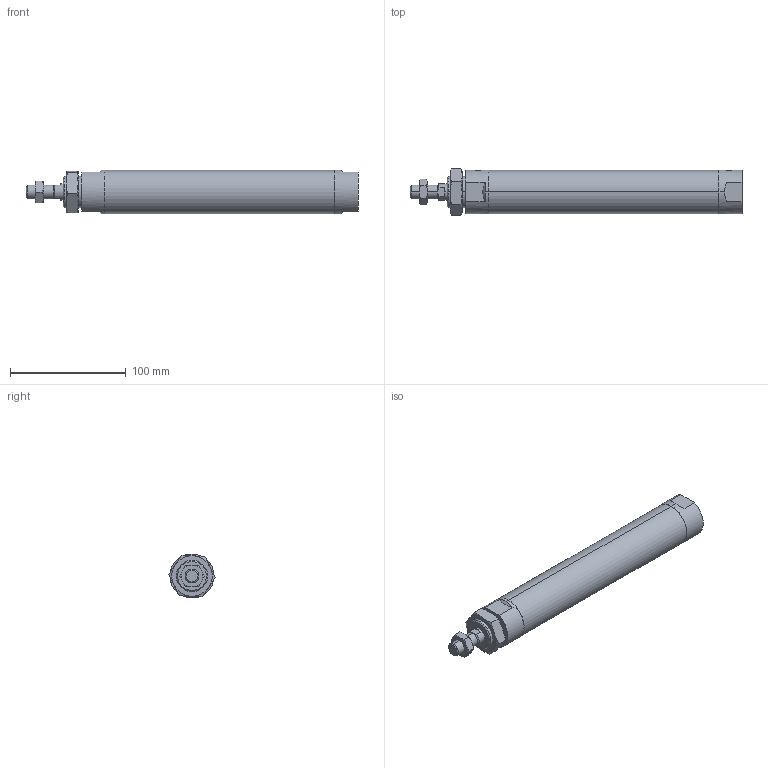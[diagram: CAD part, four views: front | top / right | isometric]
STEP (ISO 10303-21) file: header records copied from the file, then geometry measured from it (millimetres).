
FILE_DESCRIPTION (( 'STEP AP203' ), '1' );
FILE_NAME ('JGND2-32-150-N.STEP', '2016-08-04T02:55:14', ( '' ), ( '' ), 'SwSTEP 2.0', 'SolidWorks 2014', '' );
FILE_SCHEMA (( 'CONFIG_CONTROL_DESIGN' ));
Length unit declared in the file: millimetre
Products named in the file (4): J#2-32-150(P); JGND2-32-150-N
Assembly tree (3 placements, depth 2):
  JGND2-32-150-N
    J#2-32-150(P)
    (unnamed)
    (unnamed)
Bounding box: 287 x 40.33 x 38 mm (x, y, z)
Volume: 282336 mm3; surface area: 38434.6 mm2
Topology: 3 solids, 3 shells, 89 faces, 200 edges, 119 vertices
Faces by surface type: plane 32, torus 24, cylinder 20, cone 13
Entity records: 3321 total; most frequent: CARTESIAN_POINT 1017, DIRECTION 395, ORIENTED_EDGE 392, EDGE_CURVE 196, AXIS2_PLACEMENT_3D 167, VERTEX_POINT 119, EDGE_LOOP 99, ADVANCED_FACE 89
